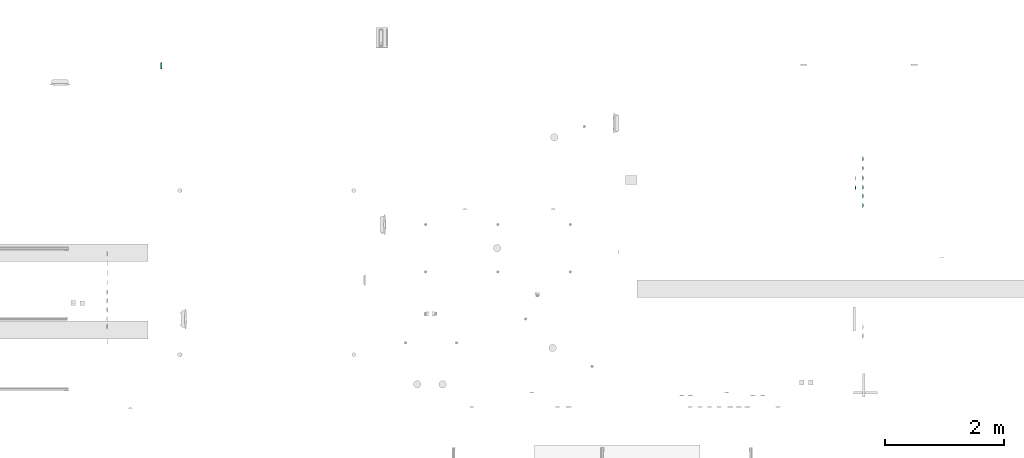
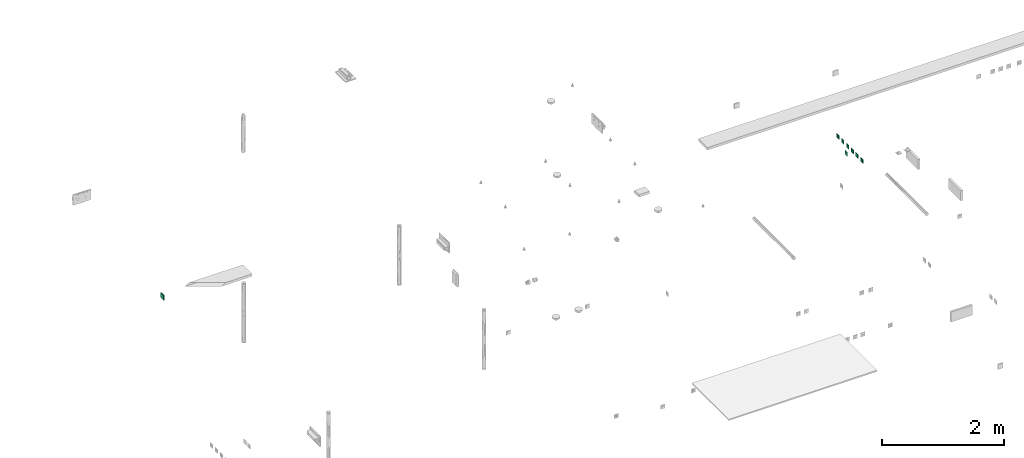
# One storey, part 66 of 146: 7 flow terminals, 1 distribution control element.
"""IFC2X3 building model written with IfcOpenShell, lengths in metres."""

from ifc_helpers import new_model, entity, si_unit, converted_unit, derived_unit, direction, frame, origin, origin_2d_with_axis, place, context, subcontext, project, spatial, rectangle, extrude, faceted_brep, source, transform, mapped, type_object, type_shapes, element, save


model = new_model("IFC2X3")

# Units and contexts
model_context = context("Model", 3, precision=1e-05, world=origin(), true_north=direction((6.12303176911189e-17, 1.0)))
body_context = subcontext(model_context, "Body", "Model", "MODEL_VIEW")
ifc_project = project(units=[si_unit("LENGTHUNIT", "METRE"), si_unit("AREAUNIT", "SQUARE_METRE"), si_unit("VOLUMEUNIT", "CUBIC_METRE"), converted_unit("PLANEANGLEUNIT", "DEGREE", entity("IfcRatioMeasure", 0.0174532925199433), si_unit("PLANEANGLEUNIT", "RADIAN"), dimensions=[0, 0, 0, 0, 0, 0, 0]), si_unit("MASSUNIT", "GRAM", prefix="KILO"), derived_unit("MASSDENSITYUNIT", [(si_unit("MASSUNIT", "GRAM", prefix="KILO"), 1), (si_unit("LENGTHUNIT", "METRE"), -3)]), si_unit("TIMEUNIT", "SECOND"), si_unit("FREQUENCYUNIT", "HERTZ"), si_unit("THERMODYNAMICTEMPERATUREUNIT", "DEGREE_CELSIUS"), derived_unit("THERMALTRANSMITTANCEUNIT", [(si_unit("MASSUNIT", "GRAM", prefix="KILO"), 1), (si_unit("THERMODYNAMICTEMPERATUREUNIT", "KELVIN"), -1), (si_unit("TIMEUNIT", "SECOND"), -3)]), derived_unit("VOLUMETRICFLOWRATEUNIT", [(si_unit("LENGTHUNIT", "METRE"), 3), (si_unit("TIMEUNIT", "SECOND"), -1)]), si_unit("ELECTRICCURRENTUNIT", "AMPERE"), si_unit("ELECTRICVOLTAGEUNIT", "VOLT"), si_unit("POWERUNIT", "WATT"), si_unit("FORCEUNIT", "NEWTON"), si_unit("ILLUMINANCEUNIT", "LUX"), si_unit("LUMINOUSFLUXUNIT", "LUMEN"), si_unit("LUMINOUSINTENSITYUNIT", "CANDELA"), derived_unit("USERDEFINED", [(si_unit("MASSUNIT", "GRAM", prefix="KILO"), -1), (si_unit("LENGTHUNIT", "METRE"), -2), (si_unit("TIMEUNIT", "SECOND"), 3), (si_unit("LUMINOUSFLUXUNIT", "LUMEN"), 1)]), derived_unit("LINEARVELOCITYUNIT", [(si_unit("LENGTHUNIT", "METRE"), 1), (si_unit("TIMEUNIT", "SECOND"), -1)]), si_unit("PRESSUREUNIT", "PASCAL"), derived_unit("USERDEFINED", [(si_unit("LENGTHUNIT", "METRE"), -2), (si_unit("MASSUNIT", "GRAM", prefix="KILO"), 1), (si_unit("TIMEUNIT", "SECOND"), -2)])], contexts=[model_context])

# Site, building, storey
site_placement = place(None, origin())
site = spatial("IfcSite", under=ifc_project, at=site_placement, Name="Default", CompositionType="ELEMENT")
building_placement = place(site_placement, origin())
building = spatial("IfcBuilding", under=site, at=building_placement, CompositionType="ELEMENT")
storey_placement = place(building_placement, origin())
storey = spatial("IfcBuildingStorey", under=building, at=storey_placement, Name="S01", CompositionType="ELEMENT", Elevation=0.0)

# Flow terminals
light_fixture_type_1 = type_object("IfcLightFixtureType", Name="VV IP21", PredefinedType="NOTDEFINED")
shared_shape_1 = source(origin(), body_context, "Body", "Brep", [
    faceted_brep([(0.0, 0.0209999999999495, -0.00460000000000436), (0.00543519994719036, 0.02028444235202, -0.00460000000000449), (0.0105000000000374, 0.0181865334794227, -0.00460000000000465), (0.0148492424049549, 0.014849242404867, -0.00460000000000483), (0.0181865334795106, 0.0104999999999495, -0.00460000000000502), (0.0202844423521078, 0.00543519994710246, -0.00460000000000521), (0.0210000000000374, 0.0, -0.00460000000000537), (0.0202844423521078, -0.00543519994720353, -0.00460000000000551), (0.0181865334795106, -0.0105000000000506, -0.0046000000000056), (0.0148492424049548, -0.0148492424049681, -0.00460000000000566), (0.0105000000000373, -0.0181865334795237, -0.00460000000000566), (0.00543519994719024, -0.0202844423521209, -0.00460000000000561), (0.0, -0.0210000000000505, -0.00460000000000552), (-0.00543519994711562, -0.0202844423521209, -0.00460000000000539), (-0.0104999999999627, -0.0181865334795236, -0.00460000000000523), (-0.0148492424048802, -0.0148492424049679, -0.00460000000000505), (-0.0181865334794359, -0.0105000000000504, -0.00460000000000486), (-0.0202844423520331, -0.00543519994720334, -0.00460000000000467), (-0.0209999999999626, 0.0, -0.00460000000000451), (-0.020284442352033, 0.00543519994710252, -0.00460000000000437), (-0.0181865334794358, 0.0104999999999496, -0.00460000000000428), (-0.0148492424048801, 0.0148492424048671, -0.00460000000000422), (-0.0104999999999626, 0.0181865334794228, -0.00460000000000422), (-0.00543519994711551, 0.02028444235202, -0.00460000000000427), (-0.020284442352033, -0.00543519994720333, 0.0), (-0.0209999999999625, 0.0, 0.0), (-0.0181865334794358, -0.0105000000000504, 0.0), (-0.0104999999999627, -0.0181865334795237, 0.0), (-0.0148492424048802, -0.0148492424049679, 0.0), (-0.00543519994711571, -0.020284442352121, 0.0), (0.0, -0.0210000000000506, 0.0), (0.00543519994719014, -0.0202844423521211, 0.0), (0.0105000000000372, -0.018186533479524, 0.0), (0.0181865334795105, -0.0105000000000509, 0.0), (0.0148492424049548, -0.0148492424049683, 0.0), (0.0202844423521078, -0.00543519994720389, 0.0), (0.0210000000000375, 0.0, 0.0), (0.0202844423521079, 0.00543519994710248, 0.0), (0.0181865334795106, 0.0104999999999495, 0.0), (0.0105000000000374, 0.0181865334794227, 0.0), (0.0148492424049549, 0.014849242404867, 0.0), (0.00543519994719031, 0.0202844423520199, 0.0), (0.0, 0.0209999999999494, 0.0), (-0.00543519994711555, 0.0202844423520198, 0.0), (-0.0104999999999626, 0.0181865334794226, 0.0), (-0.0181865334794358, 0.0104999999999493, 0.0), (-0.0148492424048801, 0.0148492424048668, 0.0), (-0.020284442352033, 0.00543519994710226, 0.0)], [[[0, 1, 2, 3, 4, 5, 6, 7, 8, 9, 10, 11, 12, 13, 14, 15, 16, 17, 18, 19, 20, 21, 22, 23]], [[17, 24, 25, 18]], [[16, 26, 24, 17]], [[27, 28, 15, 14]], [[16, 15, 28, 26]], [[29, 27, 14, 13]], [[30, 29, 13, 12]], [[11, 31, 30, 12]], [[10, 32, 31, 11]], [[33, 34, 9, 8]], [[10, 9, 34, 32]], [[35, 33, 8, 7]], [[36, 35, 7, 6]], [[5, 37, 36, 6]], [[4, 38, 37, 5]], [[39, 40, 3, 2]], [[4, 3, 40, 38]], [[41, 39, 2, 1]], [[42, 41, 1, 0]], [[23, 43, 42, 0]], [[22, 44, 43, 23]], [[45, 46, 21, 20]], [[22, 21, 46, 44]], [[47, 45, 20, 19]], [[25, 47, 19, 18]], [[25, 24, 26, 28, 27, 29, 30, 31, 32, 34, 33, 35, 36, 37, 38, 40, 39, 41, 42, 43, 44, 46, 45, 47]]]),
    faceted_brep([(0.0270000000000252, 0.026999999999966, 0.0103999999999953), (-0.0269999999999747, 0.026999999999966, 0.0103999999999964), (-0.0269999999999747, -0.0270000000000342, 0.0103999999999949), (0.0270000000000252, -0.0270000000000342, 0.0103999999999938), (-0.0254999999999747, 0.0258096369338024, 0.0103999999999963), (0.0255000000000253, 0.0258096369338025, 0.0103999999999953), (0.0255000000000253, -0.0255000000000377, 0.0103999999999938), (-0.0254999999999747, -0.0255000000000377, 0.0103999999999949), (0.0270000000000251, 0.0269999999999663, 0.00199999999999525), (0.0270000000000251, -0.0270000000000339, 0.00199999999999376), (-0.0269999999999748, -0.0270000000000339, 0.00199999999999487), (-0.0269999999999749, 0.0269999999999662, 0.00199999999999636), (0.0255000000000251, 0.0258096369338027, 0.00199999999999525), (-0.0254999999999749, 0.0258096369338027, 0.0019999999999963), (-0.0254999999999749, -0.0255000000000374, 0.00199999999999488), (0.0255000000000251, -0.0255000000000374, 0.00199999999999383)], [[[0, 1, 2, 3], [4, 5, 6, 7]], [[8, 9, 10, 11], [12, 13, 14, 15]], [[1, 0, 8, 11]], [[2, 1, 11, 10]], [[3, 2, 10, 9]], [[0, 3, 9, 8]], [[12, 5, 4, 13]], [[13, 4, 7, 14]], [[14, 7, 6, 15]], [[5, 12, 15, 6]]]),
    faceted_brep([(0.0250000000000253, 0.0253096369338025, 0.00659999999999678), (0.0250000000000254, 0.0253096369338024, 0.0117095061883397), (0.0250000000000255, -0.0245000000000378, 0.0142232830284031), (0.0250000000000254, -0.0250000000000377, 0.0117095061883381), (0.0250000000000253, -0.0250000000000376, 0.00659999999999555), (-0.0249999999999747, 0.0253096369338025, 0.00659999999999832), (-0.0249999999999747, -0.0250000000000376, 0.00659999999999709), (-0.0249999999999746, -0.0250000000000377, 0.0117095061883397), (-0.0249999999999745, -0.0245000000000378, 0.0142232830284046), (-0.0249999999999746, 0.0253096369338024, 0.0117095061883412)], [[[0, 1, 2, 3, 4]], [[5, 6, 7, 8, 9]], [[1, 0, 5, 9]], [[2, 1, 9, 8]], [[3, 2, 8, 7]], [[4, 3, 7, 6]], [[0, 4, 6, 5]]]),
    faceted_brep([(0.027000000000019, 0.0269999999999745, 0.00659999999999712), (-0.0269999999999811, 0.0269999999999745, 0.00659999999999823), (-0.026999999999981, -0.0270000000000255, 0.00659999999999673), (0.027000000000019, -0.0270000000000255, 0.00659999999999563), (0.040350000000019, 0.0403499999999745, 0.00659999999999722), (0.040350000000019, -0.0403500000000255, 0.00659999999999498), (-0.0403499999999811, -0.0403500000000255, 0.00659999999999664), (-0.0403499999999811, 0.0403499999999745, 0.00659999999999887), (-0.026999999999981, 0.0269999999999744, 0.0103999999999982), (0.027000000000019, 0.0269999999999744, 0.0103999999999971), (-0.026999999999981, -0.0270000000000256, 0.0103999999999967), (0.027000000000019, -0.0270000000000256, 0.0103999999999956)], [[[0, 1, 2, 3], [4, 5, 6, 7]], [[4, 7, 8, 9]], [[7, 6, 10, 8]], [[6, 5, 11, 10]], [[5, 4, 9, 11]], [[0, 9, 8, 1]], [[1, 8, 10, 2]], [[2, 10, 11, 3]], [[9, 0, 3, 11]]], outer=[[False, True], [True], [True], [True], [True], [True], [True], [True], [True]]),
    faceted_brep([(0.040350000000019, 0.0403499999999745, 0.00659999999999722), (-0.0403499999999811, 0.0403499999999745, 0.00659999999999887), (-0.0403499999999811, -0.0403500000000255, 0.00659999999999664), (0.040350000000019, -0.0403500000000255, 0.00659999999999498), (-0.0269999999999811, 0.0269999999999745, 0.00659999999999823), (0.0270000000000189, 0.0269999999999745, 0.00659999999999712), (0.0270000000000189, -0.0270000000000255, 0.00659999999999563), (-0.0269999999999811, -0.0270000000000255, 0.00659999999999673), (0.0403500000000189, 0.0403499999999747, 0.0), (0.0403500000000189, -0.0403500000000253, 0.0), (-0.0403499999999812, -0.0403500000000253, 0.0), (-0.0403499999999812, 0.0403499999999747, 0.0), (0.0270000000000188, 0.0269999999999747, 0.0), (-0.0269999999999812, 0.0269999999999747, 0.0), (-0.0269999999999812, -0.0270000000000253, 0.0), (0.0270000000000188, -0.0270000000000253, 0.0)], [[[0, 1, 2, 3], [4, 5, 6, 7]], [[8, 9, 10, 11], [12, 13, 14, 15]], [[1, 0, 8, 11]], [[2, 1, 11, 10]], [[3, 2, 10, 9]], [[0, 3, 9, 8]], [[12, 5, 4, 13]], [[13, 4, 7, 14]], [[14, 7, 6, 15]], [[5, 12, 15, 6]]]),
])
type_shapes(light_fixture_type_1, [shared_shape_1])
for number, where, z_axis, x_axis in (
    (1, (53.5477436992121, -186.504980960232, 1.05000000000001), (1.0, 0.0, 0.0), (0.0, 1.0, 0.0)),
    (2, (53.5477436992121, -186.664734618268, 1.05000000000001), (1.0, 0.0, 0.0), (0.0, 1.0, 0.0)),
):
    element("IfcFlowTerminal", number, at=place(storey_placement, frame(where, z_axis=z_axis, x_axis=x_axis)), inside=storey, type_object=light_fixture_type_1, Name="INT_Inter VV:VV IP21", ObjectType="INT_Inter VV:VV IP21", context=body_context, shape_type="MappedRepresentation", body=[
        mapped(shared_shape_1, transform((0.0, 0.0, 0.0), scale=1.0)),
    ])

# Distribution control element
alarm_type = type_object("IfcAlarmType", Name="Incendie_Déclenheur manuel", PredefinedType="NOTDEFINED")
shared_shape_2 = source(origin(), body_context, "Body", "SweptSolid", [
    extrude(rectangle(XDim=0.1, YDim=0.1, at=origin_2d_with_axis()), frame((0.0, 0.0, 0.0), z_axis=(0.0, 0.0, 1.0), x_axis=(0.0, 1.0, 0.0)), (0.0, 0.0, 1.0), 0.02),
])
type_shapes(alarm_type, [shared_shape_2])
distribution_control_element_placement = place(building_placement, frame((41.699743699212, -184.93642802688, 1.04999999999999), z_axis=(1.0, 0.0, 0.0), x_axis=(0.0, -1.0, 0.0)))
element("IfcDistributionControlElement", 3, at=distribution_control_element_placement, inside=storey, type_object=alarm_type, Name="INT_Déclenheur manuel:Incendie_Déclenheur manuel", ObjectType="INT_Déclenheur manuel:Incendie_Déclenheur manuel", context=body_context, shape_type="MappedRepresentation", body=[
    mapped(shared_shape_2, transform((0.0, 0.0, 0.0), scale=1.0)),
])

# Flow terminals
light_fixture_type_2 = type_object("IfcLightFixtureType", Name="BP IP21", PredefinedType="NOTDEFINED")
shared_shape_3 = source(origin(), body_context, "Body", "Brep", [
    faceted_brep([(0.0, 0.0209999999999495, -0.00460000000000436), (0.00543519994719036, 0.02028444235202, -0.00460000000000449), (0.0105000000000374, 0.0181865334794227, -0.00460000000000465), (0.0148492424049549, 0.014849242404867, -0.00460000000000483), (0.0181865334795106, 0.0104999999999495, -0.00460000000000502), (0.0202844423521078, 0.00543519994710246, -0.00460000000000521), (0.0210000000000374, 0.0, -0.00460000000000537), (0.0202844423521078, -0.00543519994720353, -0.00460000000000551), (0.0181865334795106, -0.0105000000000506, -0.0046000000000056), (0.0148492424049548, -0.0148492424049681, -0.00460000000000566), (0.0105000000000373, -0.0181865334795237, -0.00460000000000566), (0.00543519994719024, -0.0202844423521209, -0.00460000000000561), (0.0, -0.0210000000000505, -0.00460000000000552), (-0.00543519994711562, -0.0202844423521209, -0.00460000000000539), (-0.0104999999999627, -0.0181865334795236, -0.00460000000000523), (-0.0148492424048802, -0.0148492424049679, -0.00460000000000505), (-0.0181865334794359, -0.0105000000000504, -0.00460000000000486), (-0.0202844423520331, -0.00543519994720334, -0.00460000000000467), (-0.0209999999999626, 0.0, -0.00460000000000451), (-0.020284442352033, 0.00543519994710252, -0.00460000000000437), (-0.0181865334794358, 0.0104999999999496, -0.00460000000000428), (-0.0148492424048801, 0.0148492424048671, -0.00460000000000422), (-0.0104999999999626, 0.0181865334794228, -0.00460000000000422), (-0.00543519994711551, 0.02028444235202, -0.00460000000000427), (-0.020284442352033, -0.00543519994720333, 0.0), (-0.0209999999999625, 0.0, 0.0), (-0.0181865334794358, -0.0105000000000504, 0.0), (-0.0104999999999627, -0.0181865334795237, 0.0), (-0.0148492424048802, -0.0148492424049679, 0.0), (-0.00543519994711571, -0.020284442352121, 0.0), (0.0, -0.0210000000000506, 0.0), (0.00543519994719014, -0.0202844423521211, 0.0), (0.0105000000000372, -0.018186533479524, 0.0), (0.0181865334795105, -0.0105000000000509, 0.0), (0.0148492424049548, -0.0148492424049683, 0.0), (0.0202844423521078, -0.00543519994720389, 0.0), (0.0210000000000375, 0.0, 0.0), (0.0202844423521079, 0.00543519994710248, 0.0), (0.0181865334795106, 0.0104999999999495, 0.0), (0.0105000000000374, 0.0181865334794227, 0.0), (0.0148492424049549, 0.014849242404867, 0.0), (0.00543519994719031, 0.0202844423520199, 0.0), (0.0, 0.0209999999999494, 0.0), (-0.00543519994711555, 0.0202844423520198, 0.0), (-0.0104999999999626, 0.0181865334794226, 0.0), (-0.0181865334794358, 0.0104999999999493, 0.0), (-0.0148492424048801, 0.0148492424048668, 0.0), (-0.020284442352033, 0.00543519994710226, 0.0)], [[[0, 1, 2, 3, 4, 5, 6, 7, 8, 9, 10, 11, 12, 13, 14, 15, 16, 17, 18, 19, 20, 21, 22, 23]], [[17, 24, 25, 18]], [[16, 26, 24, 17]], [[27, 28, 15, 14]], [[16, 15, 28, 26]], [[29, 27, 14, 13]], [[30, 29, 13, 12]], [[11, 31, 30, 12]], [[10, 32, 31, 11]], [[33, 34, 9, 8]], [[10, 9, 34, 32]], [[35, 33, 8, 7]], [[36, 35, 7, 6]], [[5, 37, 36, 6]], [[4, 38, 37, 5]], [[39, 40, 3, 2]], [[4, 3, 40, 38]], [[41, 39, 2, 1]], [[42, 41, 1, 0]], [[23, 43, 42, 0]], [[22, 44, 43, 23]], [[45, 46, 21, 20]], [[22, 21, 46, 44]], [[47, 45, 20, 19]], [[25, 47, 19, 18]], [[25, 24, 26, 28, 27, 29, 30, 31, 32, 34, 33, 35, 36, 37, 38, 40, 39, 41, 42, 43, 44, 46, 45, 47]]]),
    faceted_brep([(0.0270000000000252, 0.026999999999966, 0.0103999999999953), (-0.0269999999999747, 0.026999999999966, 0.0103999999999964), (-0.0269999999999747, -0.0270000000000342, 0.0103999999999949), (0.0270000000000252, -0.0270000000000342, 0.0103999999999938), (-0.0254999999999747, 0.0258096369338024, 0.0103999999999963), (0.0255000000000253, 0.0258096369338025, 0.0103999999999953), (0.0255000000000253, -0.0255000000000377, 0.0103999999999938), (-0.0254999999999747, -0.0255000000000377, 0.0103999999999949), (0.0270000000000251, 0.0269999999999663, 0.00199999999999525), (0.0270000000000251, -0.0270000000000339, 0.00199999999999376), (-0.0269999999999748, -0.0270000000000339, 0.00199999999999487), (-0.0269999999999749, 0.0269999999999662, 0.00199999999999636), (0.0255000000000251, 0.0258096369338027, 0.00199999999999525), (-0.0254999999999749, 0.0258096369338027, 0.0019999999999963), (-0.0254999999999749, -0.0255000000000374, 0.00199999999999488), (0.0255000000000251, -0.0255000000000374, 0.00199999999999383)], [[[0, 1, 2, 3], [4, 5, 6, 7]], [[8, 9, 10, 11], [12, 13, 14, 15]], [[1, 0, 8, 11]], [[2, 1, 11, 10]], [[3, 2, 10, 9]], [[0, 3, 9, 8]], [[12, 5, 4, 13]], [[13, 4, 7, 14]], [[14, 7, 6, 15]], [[5, 12, 15, 6]]]),
    faceted_brep([(0.0250000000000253, 0.0253096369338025, 0.00659999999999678), (0.0250000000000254, 0.0253096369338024, 0.0117095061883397), (0.0250000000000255, -0.0245000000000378, 0.0142232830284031), (0.0250000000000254, -0.0250000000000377, 0.0117095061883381), (0.0250000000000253, -0.0250000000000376, 0.00659999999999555), (-0.0249999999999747, 0.0253096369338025, 0.00659999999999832), (-0.0249999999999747, -0.0250000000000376, 0.00659999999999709), (-0.0249999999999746, -0.0250000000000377, 0.0117095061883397), (-0.0249999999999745, -0.0245000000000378, 0.0142232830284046), (-0.0249999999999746, 0.0253096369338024, 0.0117095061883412)], [[[0, 1, 2, 3, 4]], [[5, 6, 7, 8, 9]], [[1, 0, 5, 9]], [[2, 1, 9, 8]], [[3, 2, 8, 7]], [[4, 3, 7, 6]], [[0, 4, 6, 5]]]),
    faceted_brep([(0.027000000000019, 0.0269999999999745, 0.00659999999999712), (-0.0269999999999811, 0.0269999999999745, 0.00659999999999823), (-0.026999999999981, -0.0270000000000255, 0.00659999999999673), (0.027000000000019, -0.0270000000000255, 0.00659999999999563), (0.040350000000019, 0.0403499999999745, 0.00659999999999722), (0.040350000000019, -0.0403500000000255, 0.00659999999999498), (-0.0403499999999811, -0.0403500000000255, 0.00659999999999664), (-0.0403499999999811, 0.0403499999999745, 0.00659999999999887), (-0.026999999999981, 0.0269999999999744, 0.0103999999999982), (0.027000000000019, 0.0269999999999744, 0.0103999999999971), (-0.026999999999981, -0.0270000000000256, 0.0103999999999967), (0.027000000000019, -0.0270000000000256, 0.0103999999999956)], [[[0, 1, 2, 3], [4, 5, 6, 7]], [[4, 7, 8, 9]], [[7, 6, 10, 8]], [[6, 5, 11, 10]], [[5, 4, 9, 11]], [[0, 9, 8, 1]], [[1, 8, 10, 2]], [[2, 10, 11, 3]], [[9, 0, 3, 11]]], outer=[[False, True], [True], [True], [True], [True], [True], [True], [True], [True]]),
    faceted_brep([(0.040350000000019, 0.0403499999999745, 0.00659999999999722), (-0.0403499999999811, 0.0403499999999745, 0.00659999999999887), (-0.0403499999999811, -0.0403500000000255, 0.00659999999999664), (0.040350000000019, -0.0403500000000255, 0.00659999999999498), (-0.0269999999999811, 0.0269999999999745, 0.00659999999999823), (0.0270000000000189, 0.0269999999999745, 0.00659999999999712), (0.0270000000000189, -0.0270000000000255, 0.00659999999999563), (-0.0269999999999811, -0.0270000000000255, 0.00659999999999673), (0.0403500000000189, 0.0403499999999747, 0.0), (0.0403500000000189, -0.0403500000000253, 0.0), (-0.0403499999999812, -0.0403500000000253, 0.0), (-0.0403499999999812, 0.0403499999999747, 0.0), (0.0270000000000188, 0.0269999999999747, 0.0), (-0.0269999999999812, 0.0269999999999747, 0.0), (-0.0269999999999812, -0.0270000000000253, 0.0), (0.0270000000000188, -0.0270000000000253, 0.0)], [[[0, 1, 2, 3], [4, 5, 6, 7]], [[8, 9, 10, 11], [12, 13, 14, 15]], [[1, 0, 8, 11]], [[2, 1, 11, 10]], [[3, 2, 10, 9]], [[0, 3, 9, 8]], [[12, 5, 4, 13]], [[13, 4, 7, 14]], [[14, 7, 6, 15]], [[5, 12, 15, 6]]]),
])
type_shapes(light_fixture_type_2, [shared_shape_3])
for number, where, z_axis, x_axis in (
    (4, (53.4317436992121, -186.991810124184, 1.05000000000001), (-1.0, 0.0, 0.0), (0.0, -1.0, 0.0)),
    (5, (53.5477436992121, -186.826995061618, 1.05000000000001), (1.0, 0.0, 0.0), (0.0, 1.0, 0.0)),
    (6, (53.5477436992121, -186.985726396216, 1.05000000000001), (1.0, 0.0, 0.0), (0.0, 1.0, 0.0)),
    (7, (53.5477436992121, -187.134215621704, 1.05000000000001), (1.0, 0.0, 0.0), (0.0, 1.0, 0.0)),
    (8, (53.5477436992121, -187.294127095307, 1.05000000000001), (1.0, 0.0, 0.0), (0.0, 1.0, 0.0)),
):
    element("IfcFlowTerminal", number, at=place(building_placement, frame(where, z_axis=z_axis, x_axis=x_axis)), inside=storey, type_object=light_fixture_type_2, Name="INT_Cmd BA:BP IP21", ObjectType="INT_Cmd BA:BP IP21", context=body_context, shape_type="MappedRepresentation", body=[
        mapped(shared_shape_3, transform((0.0, 0.0, 0.0), scale=1.0)),
    ])

save(model, "model.ifc")
